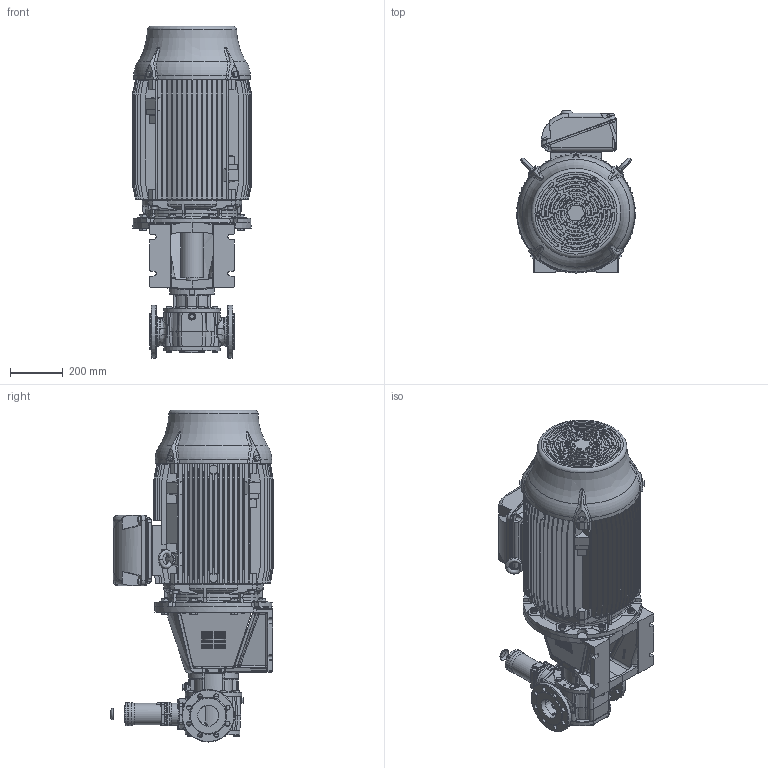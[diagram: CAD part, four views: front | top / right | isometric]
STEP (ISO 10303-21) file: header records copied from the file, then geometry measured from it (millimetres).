
FILE_DESCRIPTION(/* description */ (''),/* implementation_level */ '2;1');
FILE_NAME(/* name */ 'C:\V\JPP\Designs\GEAR PUMPS\PRODUCT ENGINEERING\EUROPE\TG BLOC\TG BLOC_58-80_G2_O_RV1-_225-STEP.stp',/* time_stamp */ '2021-03-19T11:01:23+01:00',/* author */ ('A77THR'),/* organization */ (''),/* preprocessor_version */ 'ST-DEVELOPER v18.1',/* originating_system */ 'Autodesk Inventor 2020',/* authorisation */ '');
FILE_SCHEMA (('AUTOMOTIVE_DESIGN { 1 0 10303 214 3 1 1 }'));
Length unit declared in the file: millimetre
Products named in the file (1): TG BLOC_58-80_G2_O_RV1-_225
Bounding box: 455 x 618.5 x 1262.96 mm (x, y, z)
Volume: 119123477.5 mm3; surface area: 4665090.9 mm2
Topology: 1 solids, 1 shells, 4884 faces, 12885 edges, 8210 vertices
Faces by surface type: plane 2155, cone 1001, bspline 807, cylinder 733, torus 138, sphere 50
Full cylindrical faces by diameter (mm): 4.5 x4, 4.917 x3, 5.459 x4, 6 x4, 6.3 x1, 6.647 x1, 6.8 x2, 7 x4, 7.323 x12, 8 x8, 8.7 x4, 9 x12, 10 x8, 10.106 x7, 10.2 x2, 11.053 x4, 11.4 x12, 11.445 x2, 12 x4, 13 x1, 13.157 x2, 13.2 x2, 13.835 x8, 14 x8, 14.8 x4, 15.011 x2, 17.2 x20, 17.5 x1, 18 x18, 18.1 x8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
Entity records: 206530 total; most frequent: CARTESIAN_POINT 87286, ORIENTED_EDGE 25614, DIRECTION 22150, EDGE_CURVE 12807, AXIS2_PLACEMENT_3D 8428, VERTEX_POINT 8206, EDGE_LOOP 5325, LINE 5294
